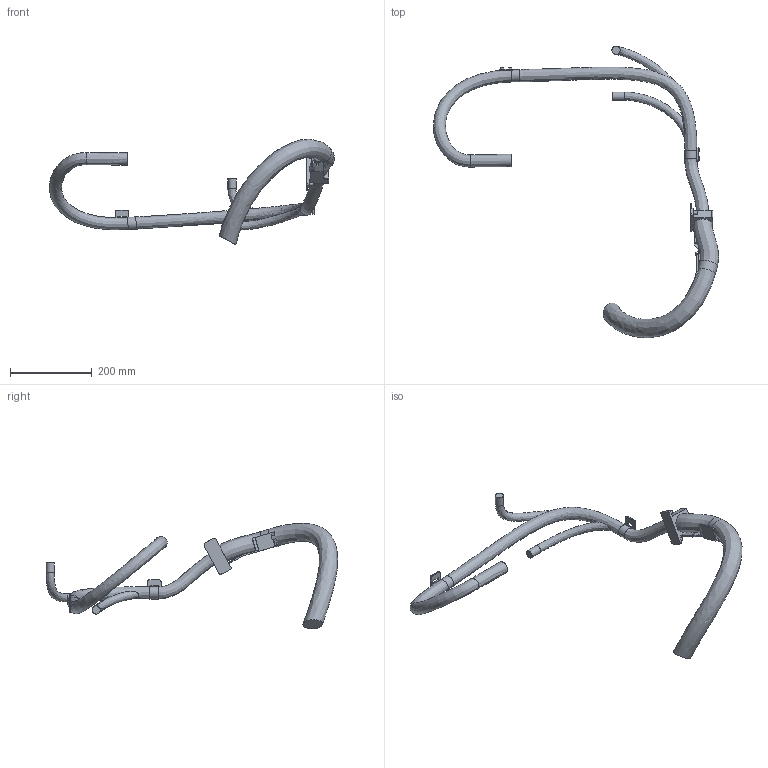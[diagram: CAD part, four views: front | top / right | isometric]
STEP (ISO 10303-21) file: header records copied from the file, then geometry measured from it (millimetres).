
FILE_DESCRIPTION (( 'STEP AP214' ), '1' );
FILE_NAME ('IRB6750S-ALL-OC_00_LINK03m_CABLE.step', '2026-05-07T13:39:51', ( '' ), ( '' ), 'SwSTEP 2.0', 'SolidWorks 2024', '' );
FILE_SCHEMA (( 'AUTOMOTIVE_DESIGN' ));
Length unit declared in the file: millimetre
Products named in the file (1): IRB6750S-ALL-OC_00_LINK03m_CABLE
Bounding box: 695.76 x 711.25 x 257.82 mm (x, y, z)
Volume: 1989290.5 mm3; surface area: 250315.5 mm2
Topology: 1 solids, 1 shells, 168 faces, 451 edges, 290 vertices
Faces by surface type: plane 98, cylinder 61, bspline 9
Full cylindrical faces by diameter (mm): 8 x6, 20 x2, 30 x1
Entity records: 10136 total; most frequent: CARTESIAN_POINT 4266, ORIENTED_EDGE 838, DIRECTION 808, EDGE_CURVE 419, AXIS2_PLACEMENT_3D 279, VERTEX_POINT 276, LINE 250, VECTOR 250
